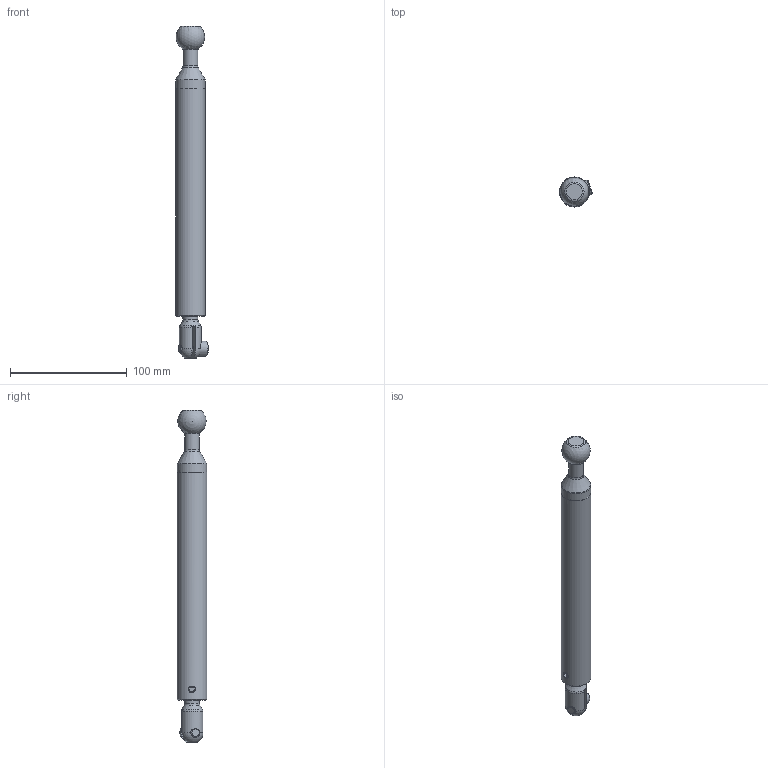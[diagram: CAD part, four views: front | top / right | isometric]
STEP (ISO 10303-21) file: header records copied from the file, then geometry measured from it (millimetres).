
FILE_DESCRIPTION(/* description */ (''),/* implementation_level */ '2;1');
FILE_NAME(/* name */ 'C:\Users\owner\Desktop\PL SERIES\PL_POSTS\PL-TPOST6IN-BK.stp',/* time_stamp */ '2017-09-28T09:17:47-04:00',/* author */ ('owner'),/* organization */ (''),/* preprocessor_version */ 'ST-DEVELOPER v16.5',/* originating_system */ 'Autodesk Inventor 2017',/* authorisation */ '');
FILE_SCHEMA (('CONFIG_CONTROL_DESIGN'));
Length unit declared in the file: inch
Products named in the file (7): PL-TPOST6IN-BK; 60058; 60007; 60008; 60046; 60054; 60040
Assembly tree (6 placements, depth 2):
  PL-TPOST6IN-BK
    60058
    60007
    60008
    60046
    60054
    60040
Bounding box: 28.14 x 25.4 x 284.29 mm (x, y, z)
Volume: 121021.3 mm3; surface area: 42065.7 mm2
Topology: 6 solids, 6 shells, 920 faces, 2455 edges, 1629 vertices
Faces by surface type: bspline 405, plane 385, cylinder 105, cone 13, torus 9, sphere 3
Full cylindrical faces by diameter (mm): 4 x1, 4.928 x1, 6 x1, 6.655 x1, 7.912 x1, 7.95 x1, 8 x1, 8.357 x1, 12.611 x1, 12.7 x2, 12.769 x1, 13 x1, 13.785 x1, 13.83 x1, 13.886 x1, 25.146 x1, 25.4 x1
Entity records: 38698 total; most frequent: CARTESIAN_POINT 18096, ORIENTED_EDGE 4798, DIRECTION 3079, EDGE_CURVE 2399, VERTEX_POINT 1615, LINE 1167, VECTOR 1167, EDGE_LOOP 1052
